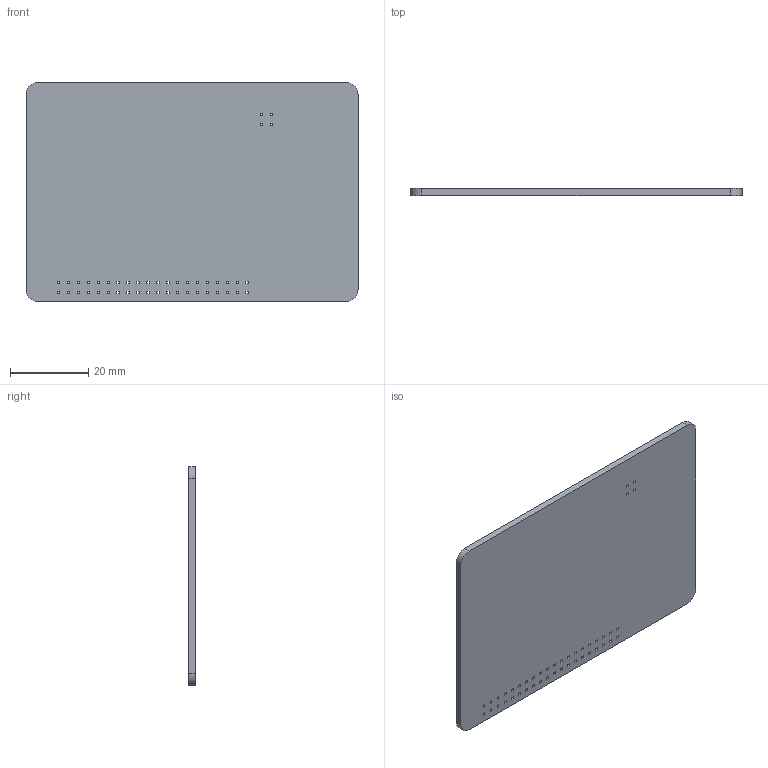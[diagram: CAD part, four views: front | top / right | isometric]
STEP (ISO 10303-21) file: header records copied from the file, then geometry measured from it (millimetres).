
FILE_DESCRIPTION(('Open CASCADE Model'),'2;1');
FILE_NAME('Open CASCADE Shape Model','2026-08-18T10:55:09',('Author'),( 'Open CASCADE'),'Open CASCADE STEP processor 7.9','Open CASCADE 7.9' ,'Unknown');
FILE_SCHEMA(('AUTOMOTIVE_DESIGN { 1 0 10303 214 1 1 1 1 }'));
Length unit declared in the file: millimetre
Products named in the file (1): pcb
Bounding box: 85 x 1.7 x 56 mm (x, y, z)
Volume: 8048.2 mm3; surface area: 10130.6 mm2
Topology: 1 solids, 1 shells, 186 faces, 552 edges, 368 vertices
Faces by surface type: plane 182, cylinder 4
Entity records: 12762 total; most frequent: CARTESIAN_POINT 2915, DIRECTION 1334, ORIENTED_EDGE 1104, PCURVE 1104, DEFINITIONAL_REPRESENTATION 1104, LINE 936, VECTOR 936, B_SPLINE_CURVE_WITH_KNOTS 704
